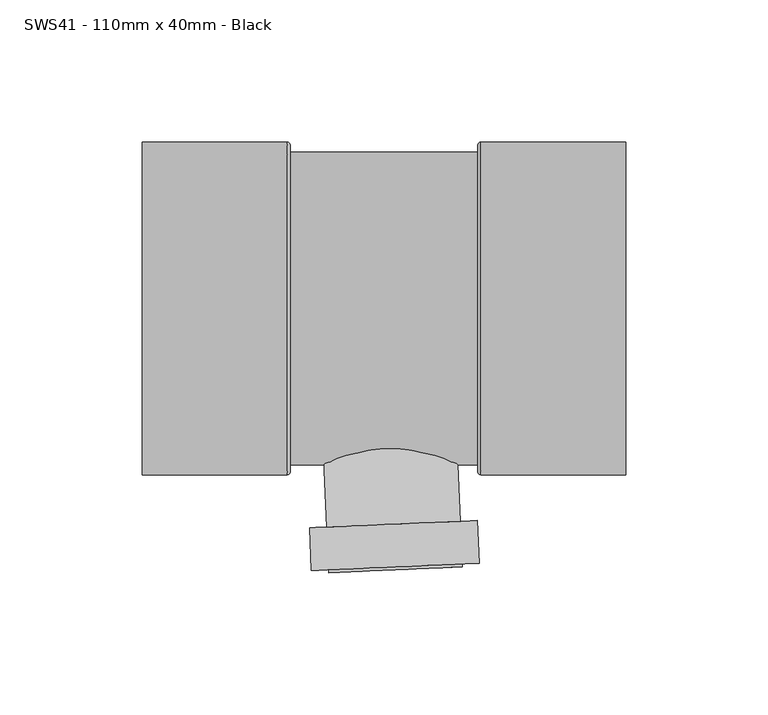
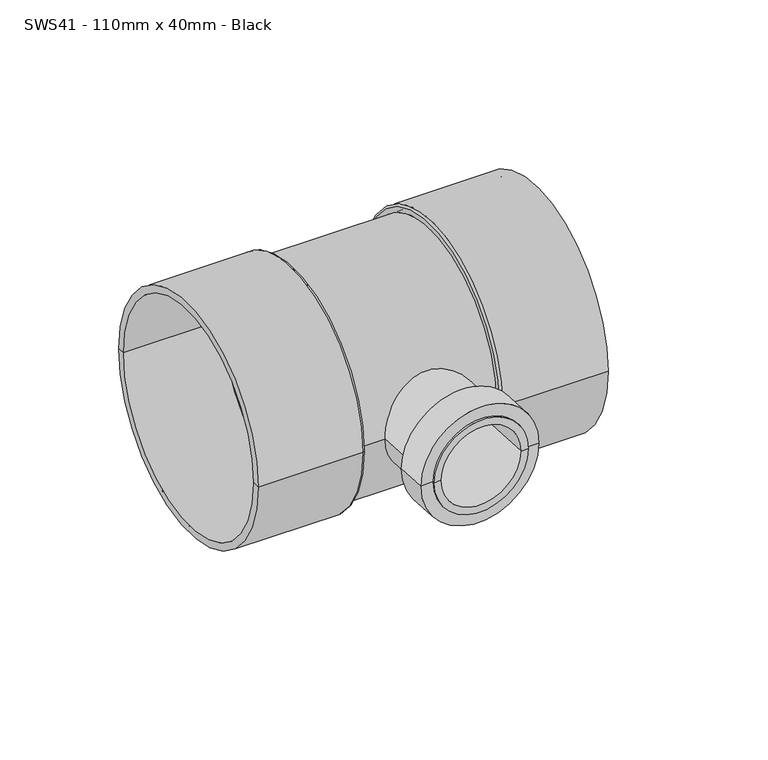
"""IFC4 building model written with IfcOpenShell, lengths in millimetres: pipe fitting geometry, MarleyPlumbingAndDrainage_PipeFitting_BossPipes_90Deg : SWS41 - 110mm x 40mm - Black."""

from ifc_helpers import new_model, si_unit, point, frame, origin, place, context, project, spatial, polyline, circle_curve, ellipse_curve, trimmed, source, transform, mapped, element, save
from ifc_brep_helpers import plane_surface, cylinder_surface, revolved_surface, advanced_brep


def sws41_110mm_x_40mm_black_fd55dc5a(model_context):
    return source(origin(), model_context, "Body", "AdvancedBrep", [
        advanced_brep(
        [(8.6522514, 1.0250556, 0.0), (-38.303015, -1.0250556, 0.0), (-14.8253818, 0.0, 0.0), (11.9673248, -74.9026092, 0.0), (-34.9879416, -76.9527204, 0.0), (17.9616142, -74.6408929, 0.0), (-40.9822309, -77.2144368, 0.0), (18.615905, -89.6266162, 0.0), (-40.3279401, -92.2001601, 0.0), (12.6216156, -89.8883326, 0.0), (-34.3336508, -91.9384438, 0.0), (12.665235, -90.8873808, 0.0), (-34.2900314, -92.937492, 0.0), (9.1685662, -91.0400486, 0.0), (-30.7933626, -92.7848241, 0.0), (7.5110295, -53.0762162, 0.0), (-32.4508993, -54.8209917, 0.0), (-12.4699349, -53.948604, 0.0)],
        [
            (0, 1, circle_curve(frame((-14.8253818, 0.0, 0.0), z_axis=(-0.043619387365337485, 0.9990482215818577, 0.0), x_axis=(-0.9990482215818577, -0.043619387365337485, 0.0)), 23.5)),
            (1, 2),
            (2, 0),
            (1, 0, circle_curve(frame((-14.8253818, 0.0, 0.0), z_axis=(-0.043619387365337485, 0.9990482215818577, 0.0), x_axis=(-0.9990482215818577, -0.043619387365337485, 0.0)), 23.5)),
            (3, 4, circle_curve(frame((-11.5103084, -75.9276648, 0.0), z_axis=(-0.043619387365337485, 0.9990482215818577, 0.0), x_axis=(-0.9990482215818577, -0.043619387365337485, 0.0)), 23.5)),
            (4, 1),
            (0, 3),
            (4, 3, circle_curve(frame((-11.5103084, -75.9276648, 0.0), z_axis=(-0.043619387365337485, 0.9990482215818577, 0.0), x_axis=(-0.9990482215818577, -0.043619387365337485, 0.0)), 23.5)),
            (5, 6, circle_curve(frame((-11.5103084, -75.9276648, 0.0), z_axis=(-0.043619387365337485, 0.9990482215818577, 0.0), x_axis=(-0.9990482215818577, -0.043619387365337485, 0.0)), 29.5)),
            (6, 4),
            (3, 5),
            (6, 5, circle_curve(frame((-11.5103084, -75.9276648, 0.0), z_axis=(-0.043619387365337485, 0.9990482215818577, 0.0), x_axis=(-0.9990482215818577, -0.043619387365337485, 0.0)), 29.5)),
            (7, 8, circle_curve(frame((-10.8560176, -90.9133882, 0.0), z_axis=(-0.043619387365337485, 0.9990482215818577, 0.0), x_axis=(-0.9990482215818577, -0.043619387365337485, 0.0)), 29.5)),
            (8, 6),
            (5, 7),
            (8, 7, circle_curve(frame((-10.8560176, -90.9133882, 0.0), z_axis=(-0.043619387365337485, 0.9990482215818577, 0.0), x_axis=(-0.9990482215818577, -0.043619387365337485, 0.0)), 29.5)),
            (9, 10, circle_curve(frame((-10.8560176, -90.9133882, 0.0), z_axis=(-0.043619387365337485, 0.9990482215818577, 0.0), x_axis=(-0.9990482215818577, -0.043619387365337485, 0.0)), 23.5)),
            (10, 8),
            (7, 9),
            (10, 9, circle_curve(frame((-10.8560176, -90.9133882, 0.0), z_axis=(-0.043619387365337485, 0.9990482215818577, 0.0), x_axis=(-0.9990482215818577, -0.043619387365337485, 0.0)), 23.5)),
            (11, 12, circle_curve(frame((-10.8123982, -91.9124364, 0.0), z_axis=(-0.043619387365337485, 0.9990482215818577, 0.0), x_axis=(-0.9990482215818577, -0.043619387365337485, 0.0)), 23.5)),
            (12, 10),
            (9, 11),
            (12, 11, circle_curve(frame((-10.8123982, -91.9124364, 0.0), z_axis=(-0.043619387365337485, 0.9990482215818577, 0.0), x_axis=(-0.9990482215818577, -0.043619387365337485, 0.0)), 23.5)),
            (13, 14, circle_curve(frame((-10.8123982, -91.9124364, 0.0), z_axis=(-0.043619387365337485, 0.9990482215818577, 0.0), x_axis=(-0.9990482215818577, -0.043619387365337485, 0.0)), 20.0)),
            (14, 12),
            (11, 13),
            (14, 13, circle_curve(frame((-10.8123982, -91.9124364, 0.0), z_axis=(-0.043619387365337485, 0.9990482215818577, 0.0), x_axis=(-0.9990482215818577, -0.043619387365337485, 0.0)), 20.0)),
            (15, 16, circle_curve(frame((-12.4699349, -53.948604, 0.0), z_axis=(-0.043619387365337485, 0.9990482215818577, 0.0), x_axis=(-0.9990482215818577, -0.043619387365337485, 0.0)), 20.0)),
            (16, 14),
            (13, 15),
            (16, 15, circle_curve(frame((-12.4699349, -53.948604, 0.0), z_axis=(-0.043619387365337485, 0.9990482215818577, 0.0), x_axis=(-0.9990482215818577, -0.043619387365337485, 0.0)), 20.0)),
            (17, 16),
            (15, 17),
        ],
        [
            plane_surface(frame((-14.8253818, 0.0, 0.0), z_axis=(-0.043619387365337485, 0.9990482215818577, 0.0), x_axis=(-0.9990482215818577, -0.043619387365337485, 0.0))),
            cylinder_surface(frame((-14.8303465, 0.1137088, 0.0), z_axis=(0.043619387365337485, -0.9990482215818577, 0.0), x_axis=(-0.9990482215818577, -0.043619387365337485, 0.0)), 23.5),
            plane_surface(frame((-11.5103084, -75.9276648, 0.0), z_axis=(-0.043619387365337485, 0.9990482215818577, 0.0), x_axis=(-0.9990482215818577, -0.043619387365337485, 0.0))),
            cylinder_surface(frame((-14.8303465, 0.1137088, 0.0), z_axis=(0.043619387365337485, -0.9990482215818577, 0.0), x_axis=(-0.9990482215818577, -0.043619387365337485, 0.0)), 29.5),
            plane_surface(frame((-10.8560176, -90.9133882, 0.0), z_axis=(0.043619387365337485, -0.9990482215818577, 0.0), x_axis=(-0.9990482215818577, -0.043619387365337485, 0.0))),
            plane_surface(frame((-10.8123982, -91.9124364, 0.0), z_axis=(0.043619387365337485, -0.9990482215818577, 0.0), x_axis=(-0.9990482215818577, -0.043619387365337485, 0.0))),
            revolved_surface(polyline([(-30.793362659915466, -92.78482414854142, 0.0), (-32.45089938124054, -54.820991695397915, 0.0)]), (-14.8303465, 0.1137088, 0.0), (0.043619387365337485, -0.9990482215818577, 0.0)),
            plane_surface(frame((-12.4699349, -53.948604, 0.0), z_axis=(0.043619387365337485, -0.9990482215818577, 0.0), x_axis=(-0.9990482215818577, -0.043619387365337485, 0.0))),
        ],
        [
            (0, [[1, 2, 3]]),
            (0, [[4, -3, -2]]),
            (1, [[5, 6, -1, 7]]),
            (1, [[8, -7, -4, -6]]),
            (2, [[9, 10, -5, 11]]),
            (2, [[12, -11, -8, -10]]),
            (3, [[13, 14, -9, 15]]),
            (3, [[16, -15, -12, -14]]),
            (4, [[17, 18, -13, 19]]),
            (4, [[20, -19, -16, -18]]),
            (1, [[21, 22, -17, 23]]),
            (1, [[24, -23, -20, -22]]),
            (5, [[25, 26, -21, 27]]),
            (5, [[28, -27, -24, -26]]),
            (6, [[29, 30, -25, 31]]),
            (6, [[32, -31, -28, -30]]),
            (7, [[33, -29, 34]]),
            (7, [[-34, -32, -33]]),
        ],
    ),
        advanced_brep(
        [(-99.8253818, -55.0, 0.0), (-99.8253818, 55.0, 0.0), (-99.8253818, 58.5, 0.0), (-99.8253818, -58.5, 0.0), (-51.3253818, -55.0, 0.0), (-51.3253818, 55.0, 0.0), (-51.3253818, 0.0, 0.0), (21.6746182, -55.0, 0.0), (21.6746182, 55.0, 0.0), (21.6746182, 0.0, 0.0), (70.1746182, -55.0, 0.0), (70.1746182, 55.0, 0.0), (70.1746182, -58.5, 0.0), (70.1746182, 58.5, 0.0), (19.1746182, -58.5, 0.0), (19.1746182, 58.5, 0.0), (18.1746182, -57.5, 0.0), (18.1746182, 57.5, 0.0), (18.1746182, -55.0, 0.0), (18.1746182, 55.0, 0.0), (-47.8253818, -55.0, 0.0), (-47.8253818, 55.0, 0.0), (-47.8253818, -57.5, 0.0), (-47.8253818, 57.5, 0.0), (-48.8253818, -58.5, 0.0), (-48.8253818, 58.5, 0.0)],
        [
            (0, 1, circle_curve(frame((-99.8253818, 0.0, 0.0), z_axis=(1.0, 0.0, 0.0), x_axis=(0.0, 1.0, 0.0)), 55.0)),
            (1, 2),
            (2, 3, circle_curve(frame((-99.8253818, 0.0, 0.0), z_axis=(-1.0, 0.0, 0.0), x_axis=(0.0, 1.0, 0.0)), 58.5)),
            (3, 0),
            (1, 0, circle_curve(frame((-99.8253818, 0.0, 0.0), z_axis=(1.0, 0.0, 0.0), x_axis=(0.0, 1.0, 0.0)), 55.0)),
            (3, 2, circle_curve(frame((-99.8253818, 0.0, 0.0), z_axis=(-1.0, 0.0, 0.0), x_axis=(0.0, 1.0, 0.0)), 58.5)),
            (4, 5, circle_curve(frame((-51.3253818, 0.0, 0.0), z_axis=(1.0, 0.0, 0.0), x_axis=(0.0, 1.0, 0.0)), 55.0)),
            (5, 1),
            (0, 4),
            (5, 4, circle_curve(frame((-51.3253818, 0.0, 0.0), z_axis=(1.0, 0.0, 0.0), x_axis=(0.0, 1.0, 0.0)), 55.0)),
            (6, 5),
            (4, 6),
            (7, 8, circle_curve(frame((21.6746182, 0.0, 0.0), z_axis=(1.0, 0.0, 0.0), x_axis=(0.0, 1.0, 0.0)), 55.0)),
            (8, 9),
            (9, 7),
            (8, 7, circle_curve(frame((21.6746182, 0.0, 0.0), z_axis=(1.0, 0.0, 0.0), x_axis=(0.0, 1.0, 0.0)), 55.0)),
            (10, 11, circle_curve(frame((70.1746182, 0.0, 0.0), z_axis=(1.0, 0.0, 0.0), x_axis=(0.0, 1.0, 0.0)), 55.0)),
            (11, 8),
            (7, 10),
            (11, 10, circle_curve(frame((70.1746182, 0.0, 0.0), z_axis=(1.0, 0.0, 0.0), x_axis=(0.0, 1.0, 0.0)), 55.0)),
            (12, 13, circle_curve(frame((70.1746182, 0.0, 0.0), z_axis=(1.0, 0.0, 0.0), x_axis=(0.0, 1.0, 0.0)), 58.5)),
            (13, 11),
            (10, 12),
            (13, 12, circle_curve(frame((70.1746182, 0.0, 0.0), z_axis=(1.0, 0.0, 0.0), x_axis=(0.0, 1.0, 0.0)), 58.5)),
            (14, 15, circle_curve(frame((19.1746182, 0.0, 0.0), z_axis=(1.0, 0.0, 0.0), x_axis=(0.0, 1.0, 0.0)), 58.5)),
            (15, 13),
            (12, 14),
            (15, 14, circle_curve(frame((19.1746182, 0.0, 0.0), z_axis=(1.0, 0.0, 0.0), x_axis=(0.0, 1.0, 0.0)), 58.5)),
            (16, 17, circle_curve(frame((18.1746182, 0.0, 0.0), z_axis=(1.0, 0.0, 0.0), x_axis=(0.0, 1.0, 0.0)), 57.5)),
            (17, 15, circle_curve(frame((19.1746182, 57.5, 0.0), z_axis=(0.0, 0.0, -1.0), x_axis=(1.0, 0.0, 0.0)), 1.0)),
            (14, 16, circle_curve(frame((19.1746182, -57.5, 0.0), z_axis=(0.0, 0.0, -1.0), x_axis=(1.0, 0.0, 0.0)), 1.0)),
            (17, 16, circle_curve(frame((18.1746182, 0.0, 0.0), z_axis=(1.0, 0.0, 0.0), x_axis=(0.0, 1.0, 0.0)), 57.5)),
            (18, 19, circle_curve(frame((18.1746182, 0.0, 0.0), z_axis=(1.0, 0.0, 0.0), x_axis=(0.0, 1.0, 0.0)), 55.0)),
            (19, 17),
            (16, 18),
            (19, 18, circle_curve(frame((18.1746182, 0.0, 0.0), z_axis=(1.0, 0.0, 0.0), x_axis=(0.0, 1.0, 0.0)), 55.0)),
            (20, 21, circle_curve(frame((-47.8253818, 0.0, 0.0), z_axis=(1.0, 0.0, 0.0), x_axis=(0.0, 1.0, 0.0)), 55.0)),
            (21, 19),
            (18, 20),
            (21, 20, circle_curve(frame((-47.8253818, 0.0, 0.0), z_axis=(1.0, 0.0, 0.0), x_axis=(0.0, 1.0, 0.0)), 55.0)),
            (22, 23, circle_curve(frame((-47.8253818, 0.0, 0.0), z_axis=(1.0, 0.0, 0.0), x_axis=(0.0, 1.0, 0.0)), 57.5)),
            (23, 21),
            (20, 22),
            (23, 22, circle_curve(frame((-47.8253818, 0.0, 0.0), z_axis=(1.0, 0.0, 0.0), x_axis=(0.0, 1.0, 0.0)), 57.5)),
            (24, 25, circle_curve(frame((-48.8253818, 0.0, 0.0), z_axis=(1.0, 0.0, 0.0), x_axis=(0.0, 1.0, 0.0)), 58.5)),
            (25, 23, circle_curve(frame((-48.8253818, 57.5, 0.0), z_axis=(0.0, 0.0, -1.0), x_axis=(1.0, 0.0, 0.0)), 1.0)),
            (22, 24, circle_curve(frame((-48.8253818, -57.5, 0.0), z_axis=(0.0, 0.0, -1.0), x_axis=(1.0, 0.0, 0.0)), 1.0)),
            (25, 24, circle_curve(frame((-48.8253818, 0.0, 0.0), z_axis=(1.0, 0.0, 0.0), x_axis=(0.0, 1.0, 0.0)), 58.5)),
            (2, 25),
            (24, 3),
        ],
        [
            plane_surface(frame((-99.8253818, 0.0, 0.0), z_axis=(-1.0, 0.0, 0.0), x_axis=(0.0, 1.0, 0.0))),
            revolved_surface(polyline([(-99.82538179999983, 55.0, 0.0), (-51.32538179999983, 55.0, 0.0)]), (2000.0, 0.0, 0.0), (-1.0, 0.0, 0.0)),
            plane_surface(frame((-51.3253818, 0.0, 0.0), z_axis=(-1.0, 0.0, 0.0), x_axis=(0.0, 1.0, 0.0))),
            plane_surface(frame((21.6746182, 0.0, 0.0), z_axis=(1.0, 0.0, 0.0), x_axis=(0.0, 1.0, 0.0))),
            revolved_surface(polyline([(21.67461819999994, 55.0, 0.0), (70.17461819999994, 55.0, 0.0)]), (2000.0, 0.0, 0.0), (-1.0, 0.0, 0.0)),
            plane_surface(frame((70.1746182, 0.0, 0.0), z_axis=(1.0, 0.0, 0.0), x_axis=(0.0, 1.0, 0.0))),
            cylinder_surface(frame((2000.0, 0.0, 0.0), z_axis=(-1.0, 0.0, 0.0), x_axis=(0.0, 1.0, 0.0)), 58.5),
            revolved_surface(trimmed(ellipse_curve(frame((19.1746182, 57.5, 0.0), z_axis=(0.0, 0.0, 1.0), x_axis=(1.0, 0.0, 0.0)), 1.0, 1.0), [point((19.1746182, 58.5, 0.0))], [point((18.1746182, 57.5, 0.0))], True, "CARTESIAN"), (2000.0, 0.0, 0.0), (-1.0, 0.0, 0.0)),
            plane_surface(frame((18.1746182, 0.0, 0.0), z_axis=(-1.0, 0.0, 0.0), x_axis=(0.0, 1.0, 0.0))),
            cylinder_surface(frame((2000.0, 0.0, 0.0), z_axis=(-1.0, 0.0, 0.0), x_axis=(0.0, 1.0, 0.0)), 55.0),
            plane_surface(frame((-47.8253818, 0.0, 0.0), z_axis=(1.0, 0.0, 0.0), x_axis=(0.0, 1.0, 0.0))),
            revolved_surface(trimmed(ellipse_curve(frame((-48.8253818, 57.5, 0.0), z_axis=(0.0, 0.0, 1.0), x_axis=(1.0, 0.0, 0.0)), 1.0, 1.0), [point((-47.8253818, 57.5, 0.0))], [point((-48.8253818, 58.5, 0.0))], True, "CARTESIAN"), (2000.0, 0.0, 0.0), (-1.0, 0.0, 0.0)),
        ],
        [
            (0, [[1, 2, 3, 4]]),
            (0, [[5, -4, 6, -2]]),
            (1, [[7, 8, -1, 9]]),
            (1, [[10, -9, -5, -8]]),
            (2, [[11, -7, 12]]),
            (2, [[-12, -10, -11]]),
            (3, [[13, 14, 15]]),
            (3, [[16, -15, -14]]),
            (4, [[17, 18, -13, 19]]),
            (4, [[20, -19, -16, -18]]),
            (5, [[21, 22, -17, 23]]),
            (5, [[24, -23, -20, -22]]),
            (6, [[25, 26, -21, 27]]),
            (6, [[28, -27, -24, -26]]),
            (7, [[29, 30, -25, 31]]),
            (7, [[32, -31, -28, -30]]),
            (8, [[33, 34, -29, 35]]),
            (8, [[36, -35, -32, -34]]),
            (9, [[37, 38, -33, 39]]),
            (9, [[40, -39, -36, -38]]),
            (10, [[41, 42, -37, 43]]),
            (10, [[44, -43, -40, -42]]),
            (11, [[45, 46, -41, 47]]),
            (11, [[48, -47, -44, -46]]),
            (6, [[-3, 49, -45, 50]]),
            (6, [[-6, -50, -48, -49]]),
        ],
    ),
    ])


if __name__ == "__main__":
    model = new_model("IFC4")
    model_context = context("Model", 3, world=origin())
    ifc_project = project(units=[si_unit("LENGTHUNIT", "METRE", prefix="MILLI")], contexts=[model_context])
    site = spatial("IfcSite", under=ifc_project)
    building = spatial("IfcBuilding", under=site)
    placement = place(None, origin())
    sws41_110mm_x_40mm_black_shape = sws41_110mm_x_40mm_black_fd55dc5a(model_context)
    element("IfcPipeFitting", 1, ObjectType="MarleyPlumbingAndDrainage_PipeFitting_BossPipes_90Deg : SWS41 - 110mm x 40mm - Black", at=placement, inside=building, context=model_context, shape_type="MappedRepresentation", body=[
        mapped(sws41_110mm_x_40mm_black_shape, transform((0.0, 0.0, 0.0), x_axis=(1.0, 0.0, 0.0), y_axis=(0.0, 1.0, 0.0), z_axis=(0.0, 0.0, 1.0))),
    ])
    save(model, "model.ifc")
